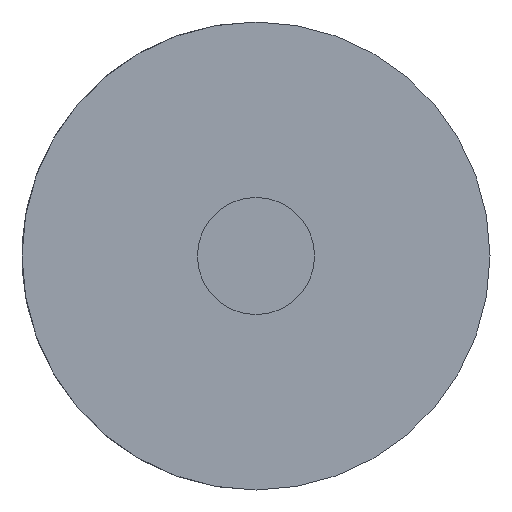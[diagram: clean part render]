
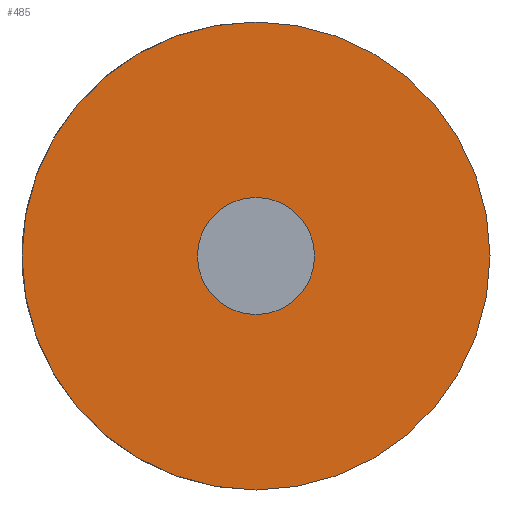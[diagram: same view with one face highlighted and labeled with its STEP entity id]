
A CAD part, front view. The second image highlights one B-rep face of the part: STEP entity #485.
In plain terms, the highlighted planar face has unit normal (0, -1, 0).
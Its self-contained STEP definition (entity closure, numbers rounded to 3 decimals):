
#6 = CARTESIAN_POINT ( 'NONE',  ( 0., -4., 0. ) ) ;
#9 = PLANE ( 'NONE',  #239 ) ;
#53 = AXIS2_PLACEMENT_3D ( 'NONE', #398, #305, #486 ) ;
#81 = VERTEX_POINT ( 'NONE', #537 ) ;
#83 = DIRECTION ( 'NONE',  ( 0., -1., 0. ) ) ;
#85 = CARTESIAN_POINT ( 'NONE',  ( 0., -4., 6.35 ) ) ;
#89 = EDGE_CURVE ( 'NONE', #504, #475, #170, .T. ) ;
#109 = DIRECTION ( 'NONE',  ( 0., 0., 1. ) ) ;
#116 = ORIENTED_EDGE ( 'NONE', *, *, #172, .F. ) ;
#125 = EDGE_CURVE ( 'NONE', #81, #329, #237, .T. ) ;
#127 = EDGE_CURVE ( 'NONE', #475, #504, #375, .T. ) ;
#170 = CIRCLE ( 'NONE', #53, 1.587 ) ;
#172 = EDGE_CURVE ( 'NONE', #329, #81, #446, .T. ) ;
#176 = DIRECTION ( 'NONE',  ( 0., 0., 1. ) ) ;
#179 = ORIENTED_EDGE ( 'NONE', *, *, #127, .F. ) ;
#190 = DIRECTION ( 'NONE',  ( 0., 1., 0. ) ) ;
#213 = DIRECTION ( 'NONE',  ( 0., 0., 1. ) ) ;
#227 = CARTESIAN_POINT ( 'NONE',  ( 0., -4., 1.587 ) ) ;
#237 = CIRCLE ( 'NONE', #533, 6.35 ) ;
#239 = AXIS2_PLACEMENT_3D ( 'NONE', #317, #190, #109 ) ;
#251 = AXIS2_PLACEMENT_3D ( 'NONE', #343, #482, #176 ) ;
#305 = DIRECTION ( 'NONE',  ( 0., -1., 0. ) ) ;
#317 = CARTESIAN_POINT ( 'NONE',  ( 0., -4., 0. ) ) ;
#329 = VERTEX_POINT ( 'NONE', #85 ) ;
#343 = CARTESIAN_POINT ( 'NONE',  ( 0., -4., 0. ) ) ;
#375 = CIRCLE ( 'NONE', #466, 1.587 ) ;
#390 = CARTESIAN_POINT ( 'NONE',  ( 0., -4., -1.587 ) ) ;
#391 = DIRECTION ( 'NONE',  ( 0., 1., 0. ) ) ;
#396 = ORIENTED_EDGE ( 'NONE', *, *, #89, .F. ) ;
#398 = CARTESIAN_POINT ( 'NONE',  ( 0., -4., 0. ) ) ;
#404 = EDGE_LOOP ( 'NONE', ( #179, #396 ) ) ;
#430 = DIRECTION ( 'NONE',  ( 0., 0., -1. ) ) ;
#443 = CARTESIAN_POINT ( 'NONE',  ( 0., -4., 0. ) ) ;
#446 = CIRCLE ( 'NONE', #251, 6.35 ) ;
#466 = AXIS2_PLACEMENT_3D ( 'NONE', #6, #83, #430 ) ;
#470 = ORIENTED_EDGE ( 'NONE', *, *, #125, .F. ) ;
#475 = VERTEX_POINT ( 'NONE', #390 ) ;
#482 = DIRECTION ( 'NONE',  ( 0., 1., 0. ) ) ;
#485 = ADVANCED_FACE ( 'NONE', ( #539, #548 ), #9, .F. ) ;
#486 = DIRECTION ( 'NONE',  ( 0., 0., -1. ) ) ;
#504 = VERTEX_POINT ( 'NONE', #227 ) ;
#507 = EDGE_LOOP ( 'NONE', ( #470, #116 ) ) ;
#533 = AXIS2_PLACEMENT_3D ( 'NONE', #443, #391, #213 ) ;
#537 = CARTESIAN_POINT ( 'NONE',  ( 0., -4., -6.35 ) ) ;
#539 = FACE_BOUND ( 'NONE', #404, .T. ) ;
#548 = FACE_OUTER_BOUND ( 'NONE', #507, .T. ) ;
